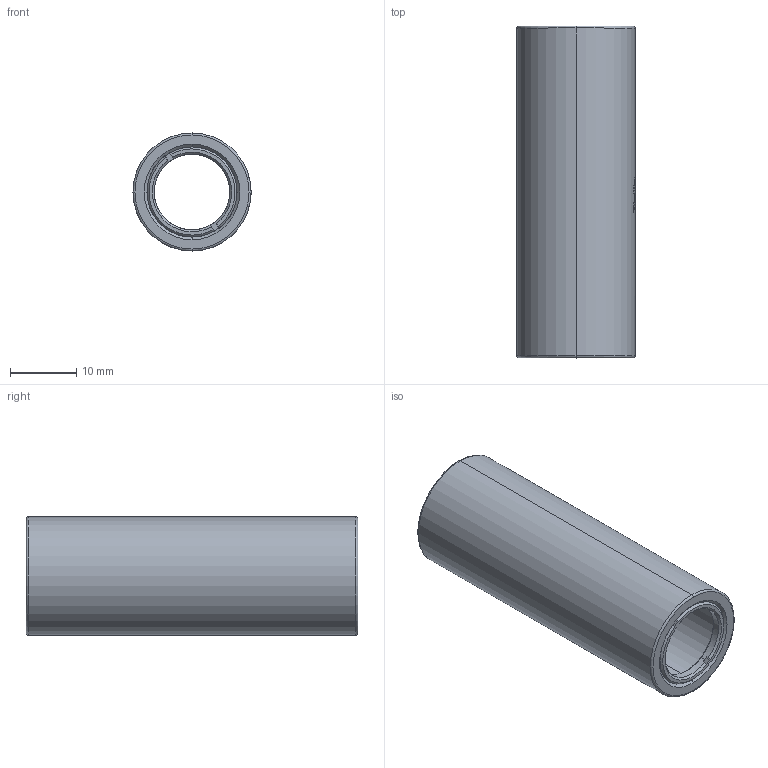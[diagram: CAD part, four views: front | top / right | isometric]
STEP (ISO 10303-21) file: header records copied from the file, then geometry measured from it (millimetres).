
FILE_DESCRIPTION (( 'STEP AP203' ), '1' );
FILE_NAME ('CSSM05-50B.STEP', '2025-08-29T03:04:46', ( '' ), ( '' ), 'SwSTEP 2.0', 'SolidWorks 2020', '' );
FILE_SCHEMA (( 'CONFIG_CONTROL_DESIGN' ));
Length unit declared in the file: millimetre
Products named in the file (1): CSSM05-50B
Bounding box: 17.8 x 50 x 17.8 mm (x, y, z)
Volume: 5310 mm3; surface area: 5491.2 mm2
Topology: 3 solids, 3 shells, 375 faces, 1025 edges, 678 vertices
Faces by surface type: bspline 246, plane 69, cylinder 36, cone 20, torus 4
Entity records: 22450 total; most frequent: CARTESIAN_POINT 15059, ORIENTED_EDGE 2050, EDGE_CURVE 1025, B_SPLINE_CURVE_WITH_KNOTS 785, VERTEX_POINT 678, DIRECTION 602, EDGE_LOOP 403, ADVANCED_FACE 375
